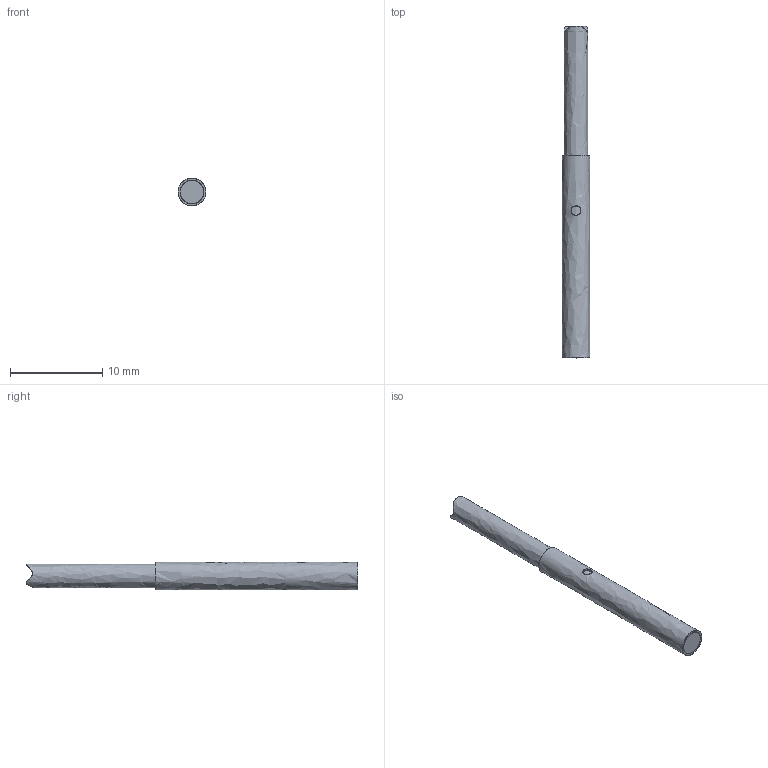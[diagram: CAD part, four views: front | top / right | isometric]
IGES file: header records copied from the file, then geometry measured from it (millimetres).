
Global section: file name: E:\lem\3DCAD_IS_203MP_4NO_1E5.igs; native system: NX V8.5; preprocessor: SIEMENS PLM Software NX 8.5; date: 20171018.155132; units: millimetre
Bounding box: 3 x 36.03 x 3 mm (x, y, z)
Surface area: 338.5 mm2 (no closed solid volume)
Topology: 0 solids, 0 shells, 11 faces, 117 edges, 117 vertices
Faces by surface type: bspline 11
